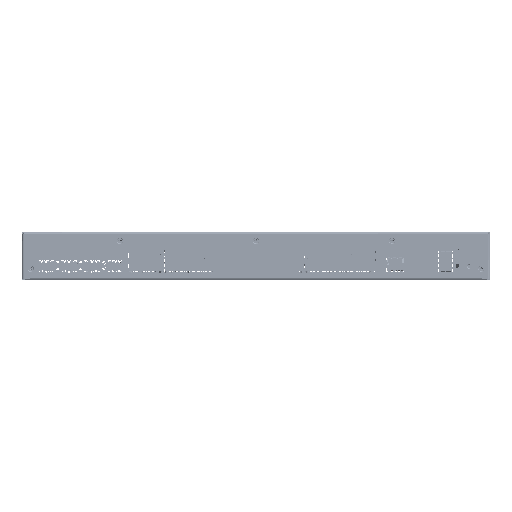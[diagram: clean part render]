
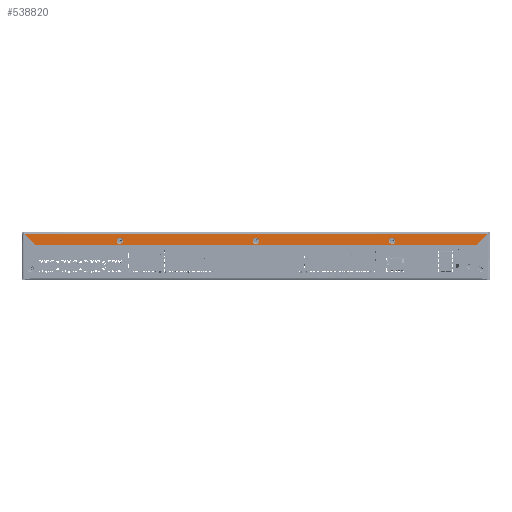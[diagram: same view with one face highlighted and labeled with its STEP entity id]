
A CAD part, top view. The second image highlights one B-rep face of the part: STEP entity #538820.
In plain terms, the highlighted planar face has unit normal (0, 0, 1).
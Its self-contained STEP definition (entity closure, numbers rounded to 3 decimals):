
#307 = CARTESIAN_POINT ( 'NONE',  ( -120.065, -7.975, 129.6 ) ) ;
#3869 = CARTESIAN_POINT ( 'NONE',  ( 132.785, -7.975, 129.6 ) ) ;
#9568 = CARTESIAN_POINT ( 'NONE',  ( 4.935, -7.975, 129.6 ) ) ;
#10230 = AXIS2_PLACEMENT_3D ( 'NONE', #326374, #502096, #372456 ) ;
#12414 = DIRECTION ( 'NONE',  ( 1., 0., 0. ) ) ;
#20919 = VERTEX_POINT ( 'NONE', #210348 ) ;
#24866 = DIRECTION ( 'NONE',  ( 0., 0., 1. ) ) ;
#26263 = EDGE_CURVE ( 'NONE', #438450, #20919, #513042, .T. ) ;
#49519 = CARTESIAN_POINT ( 'NONE',  ( -208.153, -1.675, 129.6 ) ) ;
#60430 = DIRECTION ( 'NONE',  ( 1., 0., 0. ) ) ;
#63753 = EDGE_CURVE ( 'NONE', #20919, #137830, #205600, .T. ) ;
#67810 = DIRECTION ( 'NONE',  ( 1., 0., 0. ) ) ;
#73933 = ORIENTED_EDGE ( 'NONE', *, *, #26263, .F. ) ;
#76180 = LINE ( 'NONE', #511196, #450591 ) ;
#97304 = CARTESIAN_POINT ( 'NONE',  ( 127.085, -7.975, 129.6 ) ) ;
#98153 = DIRECTION ( 'NONE',  ( 1., 0., 0. ) ) ;
#106112 = EDGE_LOOP ( 'NONE', ( #139943, #458094 ) ) ;
#124761 = CARTESIAN_POINT ( 'NONE',  ( 218.023, -1.675, 129.6 ) ) ;
#125448 = VERTEX_POINT ( 'NONE', #97304 ) ;
#127918 = DIRECTION ( 'NONE',  ( -0.707, 0.707, 0. ) ) ;
#129015 = EDGE_CURVE ( 'NONE', #362497, #331389, #192279, .T. ) ;
#137830 = VERTEX_POINT ( 'NONE', #519867 ) ;
#139943 = ORIENTED_EDGE ( 'NONE', *, *, #293233, .F. ) ;
#141128 = EDGE_LOOP ( 'NONE', ( #344399, #521370 ) ) ;
#142983 = EDGE_CURVE ( 'NONE', #414177, #482149, #372731, .T. ) ;
#148628 = VERTEX_POINT ( 'NONE', #3869 ) ;
#150767 = FACE_BOUND ( 'NONE', #446852, .T. ) ;
#153429 = CARTESIAN_POINT ( 'NONE',  ( -210.065, -11.975, 129.6 ) ) ;
#153786 = EDGE_CURVE ( 'NONE', #482149, #414177, #416204, .T. ) ;
#157469 = CARTESIAN_POINT ( 'NONE',  ( 129.935, -7.975, 129.6 ) ) ;
#167337 = DIRECTION ( 'NONE',  ( 1., 0., 0. ) ) ;
#176210 = CARTESIAN_POINT ( 'NONE',  ( -197.853, -11.975, 129.6 ) ) ;
#179113 = EDGE_CURVE ( 'NONE', #148628, #125448, #208633, .T. ) ;
#183672 = ORIENTED_EDGE ( 'NONE', *, *, #179113, .F. ) ;
#185401 = DIRECTION ( 'NONE',  ( 0., 0., 1. ) ) ;
#192279 = CIRCLE ( 'NONE', #311826, 2.85 ) ;
#194307 = EDGE_LOOP ( 'NONE', ( #422091, #73933, #196661, #511513 ) ) ;
#195113 = CIRCLE ( 'NONE', #498532, 2.85 ) ;
#196661 = ORIENTED_EDGE ( 'NONE', *, *, #476843, .F. ) ;
#196724 = CIRCLE ( 'NONE', #261184, 2.85 ) ;
#205600 = LINE ( 'NONE', #124761, #529743 ) ;
#208633 = CIRCLE ( 'NONE', #264082, 2.85 ) ;
#208859 = CARTESIAN_POINT ( 'NONE',  ( 4.935, -7.975, 129.6 ) ) ;
#210348 = CARTESIAN_POINT ( 'NONE',  ( 218.023, -1.675, 129.6 ) ) ;
#216439 = AXIS2_PLACEMENT_3D ( 'NONE', #9568, #185401, #12414 ) ;
#227817 = DIRECTION ( 'NONE',  ( 0., 0., 1. ) ) ;
#243376 = CARTESIAN_POINT ( 'NONE',  ( -117.215, -7.975, 129.6 ) ) ;
#247340 = VECTOR ( 'NONE', #539560, 1000. ) ;
#248379 = VECTOR ( 'NONE', #167337, 1000. ) ;
#261184 = AXIS2_PLACEMENT_3D ( 'NONE', #157469, #24866, #370689 ) ;
#264082 = AXIS2_PLACEMENT_3D ( 'NONE', #511300, #422016, #516979 ) ;
#265690 = CARTESIAN_POINT ( 'NONE',  ( 7.785, -7.975, 129.6 ) ) ;
#283200 = FACE_BOUND ( 'NONE', #141128, .T. ) ;
#293233 = EDGE_CURVE ( 'NONE', #331389, #362497, #195113, .T. ) ;
#294102 = CARTESIAN_POINT ( 'NONE',  ( 218.235, -1.675, 129.6 ) ) ;
#300443 = DIRECTION ( 'NONE',  ( -0.707, -0.707, 0. ) ) ;
#301723 = CARTESIAN_POINT ( 'NONE',  ( 2.085, -7.975, 129.6 ) ) ;
#311826 = AXIS2_PLACEMENT_3D ( 'NONE', #307, #227817, #98153 ) ;
#325422 = CARTESIAN_POINT ( 'NONE',  ( -120.065, -7.975, 129.6 ) ) ;
#326374 = CARTESIAN_POINT ( 'NONE',  ( -210.065, -0.975, 129.6 ) ) ;
#331389 = VERTEX_POINT ( 'NONE', #243376 ) ;
#344399 = ORIENTED_EDGE ( 'NONE', *, *, #142983, .F. ) ;
#362497 = VERTEX_POINT ( 'NONE', #447888 ) ;
#370689 = DIRECTION ( 'NONE',  ( 1., 0., 0. ) ) ;
#371498 = DIRECTION ( 'NONE',  ( 0., 0., 1. ) ) ;
#372456 = DIRECTION ( 'NONE',  ( 0., 1., 0. ) ) ;
#372731 = CIRCLE ( 'NONE', #216439, 2.85 ) ;
#378124 = FACE_OUTER_BOUND ( 'NONE', #194307, .T. ) ;
#384513 = DIRECTION ( 'NONE',  ( 0., 0., 1. ) ) ;
#414177 = VERTEX_POINT ( 'NONE', #265690 ) ;
#416204 = CIRCLE ( 'NONE', #471333, 2.85 ) ;
#422016 = DIRECTION ( 'NONE',  ( 0., 0., 1. ) ) ;
#422091 = ORIENTED_EDGE ( 'NONE', *, *, #63753, .F. ) ;
#438450 = VERTEX_POINT ( 'NONE', #49519 ) ;
#446852 = EDGE_LOOP ( 'NONE', ( #183672, #550075 ) ) ;
#447888 = CARTESIAN_POINT ( 'NONE',  ( -122.915, -7.975, 129.6 ) ) ;
#450228 = LINE ( 'NONE', #153429, #247340 ) ;
#450591 = VECTOR ( 'NONE', #127918, 1000. ) ;
#458094 = ORIENTED_EDGE ( 'NONE', *, *, #129015, .F. ) ;
#461731 = FACE_BOUND ( 'NONE', #106112, .T. ) ;
#467707 = EDGE_CURVE ( 'NONE', #125448, #148628, #196724, .T. ) ;
#471333 = AXIS2_PLACEMENT_3D ( 'NONE', #208859, #384513, #67810 ) ;
#476843 = EDGE_CURVE ( 'NONE', #564950, #438450, #76180, .T. ) ;
#482149 = VERTEX_POINT ( 'NONE', #301723 ) ;
#498532 = AXIS2_PLACEMENT_3D ( 'NONE', #325422, #371498, #60430 ) ;
#502096 = DIRECTION ( 'NONE',  ( 0., 0., -1. ) ) ;
#511196 = CARTESIAN_POINT ( 'NONE',  ( 93.288, -303.116, 129.6 ) ) ;
#511300 = CARTESIAN_POINT ( 'NONE',  ( 129.935, -7.975, 129.6 ) ) ;
#511513 = ORIENTED_EDGE ( 'NONE', *, *, #563569, .T. ) ;
#513042 = LINE ( 'NONE', #294102, #248379 ) ;
#516979 = DIRECTION ( 'NONE',  ( 1., 0., 0. ) ) ;
#519867 = CARTESIAN_POINT ( 'NONE',  ( 207.723, -11.975, 129.6 ) ) ;
#521370 = ORIENTED_EDGE ( 'NONE', *, *, #153786, .F. ) ;
#529743 = VECTOR ( 'NONE', #300443, 1000. ) ;
#538820 = ADVANCED_FACE ( 'NONE', ( #461731, #283200, #150767, #378124 ), #553895, .F. ) ;
#539560 = DIRECTION ( 'NONE',  ( 1., 0., 0. ) ) ;
#550075 = ORIENTED_EDGE ( 'NONE', *, *, #467707, .F. ) ;
#553895 = PLANE ( 'NONE',  #10230 ) ;
#563569 = EDGE_CURVE ( 'NONE', #564950, #137830, #450228, .T. ) ;
#564950 = VERTEX_POINT ( 'NONE', #176210 ) ;
